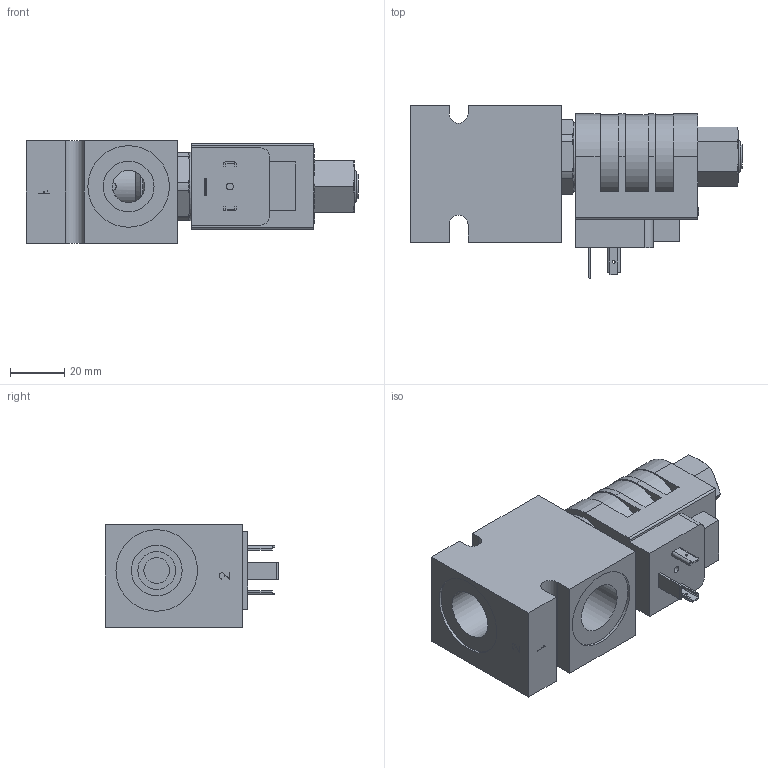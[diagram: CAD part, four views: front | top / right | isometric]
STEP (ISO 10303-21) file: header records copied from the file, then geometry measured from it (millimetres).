
FILE_DESCRIPTION( ( 'Unknown' ), '1' );
FILE_NAME( 'G:/Graphic Design/Graphic Design 2/Data Sheets/PROPORTIONAL CONTROLS/2_STEP/EEPRD00-C2A.stp', 'Unknown', ( 'Unknown' ), ( 'Unknown' ), 'PSStep 17.0.49', 'Unknown', ' ' );
FILE_SCHEMA( ( 'AUTOMOTIVE_DESIGN { 1 0 10303 214 1 1 1 1 }' ) );
Length unit declared in the file: millimetre
Products named in the file (22): EEPRD00; EEPRD00-3D Full1; EEPRD00-3D Full2; EEPRD00-3D Full3; EEPRD00-3D Full4; PHC; PHC_0; Assem1; B-DDEC2; DELTA MINI NUT LONG 36202017
Assembly tree (21 placements, depth 3):
  Assem1
    B-DDEC2
    DELTA MINI NUT LONG 36202017
    EEPRD00
      EEPRD00-3D Full1
      EEPRD00-3D Full2
      EEPRD00-3D Full3
      EEPRD00-3D Full4
    PHC
      PHC_0
      PHC_0
      PHC_0
      PHC_0
      PHC_0
      PHC_0
      PHC_0
      PHC_0
      PHC_0
      PHC_0
      PHC_0
      PHC_0
      PHC_0
Bounding box: 122.93 x 64.31 x 38.1 mm (x, y, z)
Volume: 156100.8 mm3; surface area: 41401.3 mm2
Topology: 19 solids, 19 shells, 463 faces, 1131 edges, 731 vertices
Faces by surface type: plane 311, cylinder 84, cone 63, torus 5
Full cylindrical faces by diameter (mm): 0.2 x2, 0.994 x2, 2.54 x1, 3.175 x7, 9.53 x1, 11.506 x1, 12 x1, 12.675 x1, 12.992 x1, 13.005 x1, 13.043 x1, 13.208 x1, 14 x1, 15.684 x1, 15.761 x2, 15.9 x1, 17.043 x1, 18.8 x4, 19.624 x1, 20.262 x2, 25.4 x1, 26.975 x2, 30.17 x2, 30.175 x1
Entity records: 17257 total; most frequent: CARTESIAN_POINT 2804, DIRECTION 2093, ORIENTED_EDGE 2062, EDGE_CURVE 1031, VERTEX_POINT 718, AXIS2_PLACEMENT_3D 713, LINE 667, VECTOR 667
